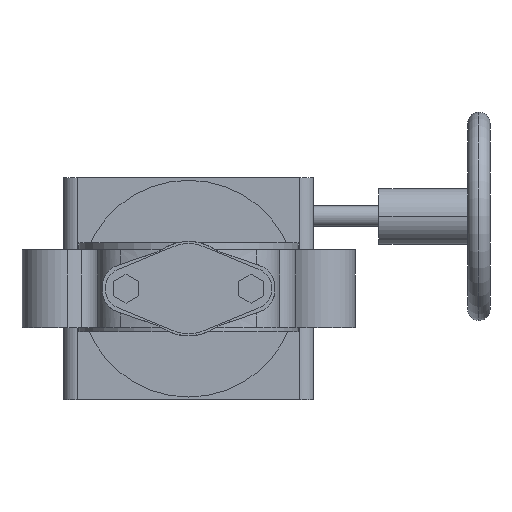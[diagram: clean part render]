
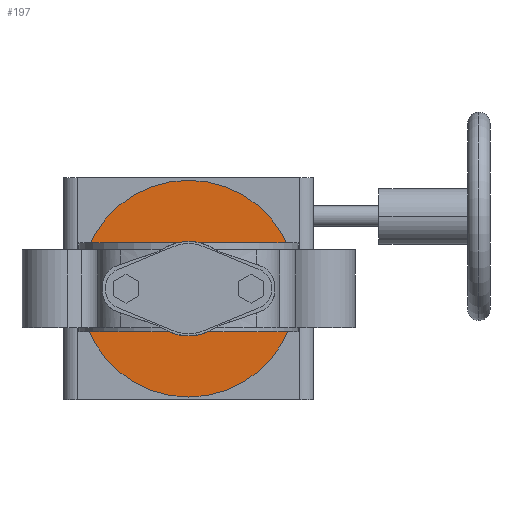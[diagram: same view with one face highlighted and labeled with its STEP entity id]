
A CAD part, front view. The second image highlights one B-rep face of the part: STEP entity #197.
In plain terms, the highlighted planar face has unit normal (0, -1, 0).
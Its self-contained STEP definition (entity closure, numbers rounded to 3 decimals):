
#197 = ADVANCED_FACE( '', ( #597, #598 ), #599, .T. );
#597 = FACE_OUTER_BOUND( '', #1276, .T. );
#598 = FACE_BOUND( '', #1277, .T. );
#599 = PLANE( '', #1278 );
#1276 = EDGE_LOOP( '', ( #2371, #2372 ) );
#1277 = EDGE_LOOP( '', ( #2373, #2374, #2375, #2376 ) );
#1278 = AXIS2_PLACEMENT_3D( '', #2377, #2378, #2379 );
#2371 = ORIENTED_EDGE( '', *, *, #4504, .F. );
#2372 = ORIENTED_EDGE( '', *, *, #4626, .F. );
#2373 = ORIENTED_EDGE( '', *, *, #4627, .T. );
#2374 = ORIENTED_EDGE( '', *, *, #4628, .T. );
#2375 = ORIENTED_EDGE( '', *, *, #4629, .T. );
#2376 = ORIENTED_EDGE( '', *, *, #4630, .T. );
#2377 = CARTESIAN_POINT( '', ( 46., 171., 0. ) );
#2378 = DIRECTION( '', ( 0., -1., 0. ) );
#2379 = DIRECTION( '', ( -1., 0., 0. ) );
#4504 = EDGE_CURVE( '', #5456, #5459, #5460, .T. );
#4626 = EDGE_CURVE( '', #5459, #5456, #5659, .T. );
#4627 = EDGE_CURVE( '', #5660, #5661, #5662, .T. );
#4628 = EDGE_CURVE( '', #5661, #5663, #5664, .T. );
#4629 = EDGE_CURVE( '', #5663, #5665, #5666, .T. );
#4630 = EDGE_CURVE( '', #5665, #5660, #5667, .T. );
#5456 = VERTEX_POINT( '', #7116 );
#5459 = VERTEX_POINT( '', #7120 );
#5460 = CIRCLE( '', #7121, 78. );
#5659 = CIRCLE( '', #7532, 78. );
#5660 = VERTEX_POINT( '', #7533 );
#5661 = VERTEX_POINT( '', #7534 );
#5662 = LINE( '', #7535, #7536 );
#5663 = VERTEX_POINT( '', #7537 );
#5664 = LINE( '', #7538, #7539 );
#5665 = VERTEX_POINT( '', #7540 );
#5666 = LINE( '', #7541, #7542 );
#5667 = LINE( '', #7543, #7544 );
#7116 = CARTESIAN_POINT( '', ( 78., 171., 0. ) );
#7120 = CARTESIAN_POINT( '', ( -78., 171., 0. ) );
#7121 = AXIS2_PLACEMENT_3D( '', #9144, #9145, #9146 );
#7532 = AXIS2_PLACEMENT_3D( '', #9370, #9371, #9372 );
#7533 = CARTESIAN_POINT( '', ( -40.5, 171., -28. ) );
#7534 = CARTESIAN_POINT( '', ( -40.5, 171., 28. ) );
#7535 = CARTESIAN_POINT( '', ( -40.5, 171., -28. ) );
#7536 = VECTOR( '', #9373, 1. );
#7537 = CARTESIAN_POINT( '', ( 40.5, 171., 28. ) );
#7538 = CARTESIAN_POINT( '', ( -40.5, 171., 28. ) );
#7539 = VECTOR( '', #9374, 1. );
#7540 = CARTESIAN_POINT( '', ( 40.5, 171., -28. ) );
#7541 = CARTESIAN_POINT( '', ( 40.5, 171., 28. ) );
#7542 = VECTOR( '', #9375, 1. );
#7543 = CARTESIAN_POINT( '', ( 40.5, 171., -28. ) );
#7544 = VECTOR( '', #9376, 1. );
#9144 = CARTESIAN_POINT( '', ( 0., 171., 0. ) );
#9145 = DIRECTION( '', ( 0., 1., 0. ) );
#9146 = DIRECTION( '', ( 1., 0., 0. ) );
#9370 = CARTESIAN_POINT( '', ( 0., 171., 0. ) );
#9371 = DIRECTION( '', ( 0., 1., 0. ) );
#9372 = DIRECTION( '', ( 1., 0., 0. ) );
#9373 = DIRECTION( '', ( 0., 0., 1. ) );
#9374 = DIRECTION( '', ( 1., 0., 0. ) );
#9375 = DIRECTION( '', ( 0., 0., -1. ) );
#9376 = DIRECTION( '', ( -1., 0., 0. ) );
